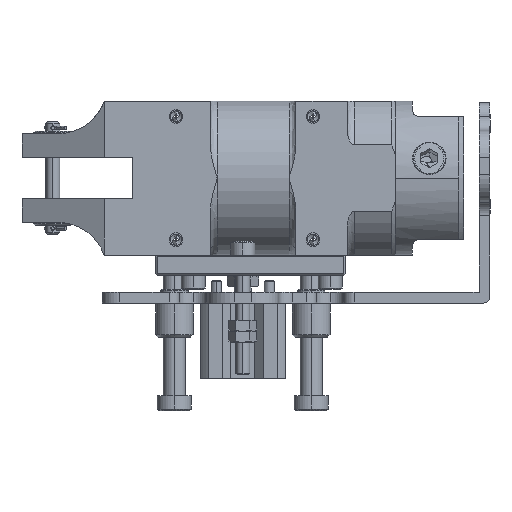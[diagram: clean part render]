
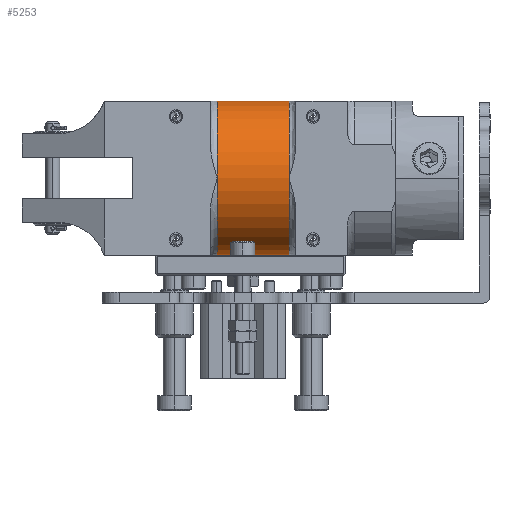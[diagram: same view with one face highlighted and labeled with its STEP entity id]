
A CAD part, left-side view. The second image highlights one B-rep face of the part: STEP entity #5253.
In plain terms, the highlighted cylindrical face has radius 22.5 mm (diameter 45 mm), a partial arc.
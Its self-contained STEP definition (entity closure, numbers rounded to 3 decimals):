
#202 = VERTEX_POINT ( 'NONE', #28748 ) ;
#631 = DIRECTION ( 'NONE',  ( 0., 1., 0. ) ) ;
#946 = CIRCLE ( 'NONE', #1583, 22.5 ) ;
#1263 = DIRECTION ( 'NONE',  ( 0., 0., 1. ) ) ;
#1583 = AXIS2_PLACEMENT_3D ( 'NONE', #14638, #33939, #17383 ) ;
#2890 = CIRCLE ( 'NONE', #27525, 22.5 ) ;
#3549 = LINE ( 'NONE', #33625, #14743 ) ;
#5253 = ADVANCED_FACE ( 'NONE', ( #31962 ), #13834, .T. ) ;
#5865 = DIRECTION ( 'NONE',  ( 0., 1., 0. ) ) ;
#6053 = VERTEX_POINT ( 'NONE', #25131 ) ;
#7167 = CARTESIAN_POINT ( 'NONE',  ( -15.584, 9.627, 22.5 ) ) ;
#8032 = ORIENTED_EDGE ( 'NONE', *, *, #33818, .F. ) ;
#8851 = VERTEX_POINT ( 'NONE', #9040 ) ;
#9040 = CARTESIAN_POINT ( 'NONE',  ( -38.084, 9.627, 22.5 ) ) ;
#9157 = CARTESIAN_POINT ( 'NONE',  ( -38.084, -11.373, 22.5 ) ) ;
#9910 = DIRECTION ( 'NONE',  ( 0., 0., 1. ) ) ;
#10922 = VERTEX_POINT ( 'NONE', #30699 ) ;
#11198 = AXIS2_PLACEMENT_3D ( 'NONE', #11657, #30945, #14425 ) ;
#11657 = CARTESIAN_POINT ( 'NONE',  ( -15.584, -11.373, 22.5 ) ) ;
#11749 = AXIS2_PLACEMENT_3D ( 'NONE', #7167, #26439, #9910 ) ;
#13668 = VECTOR ( 'NONE', #5865, 1000. ) ;
#13834 = CYLINDRICAL_SURFACE ( 'NONE', #21884, 22.5 ) ;
#14093 = CARTESIAN_POINT ( 'NONE',  ( -15.584, -11.373, 22.5 ) ) ;
#14425 = DIRECTION ( 'NONE',  ( 0., 0., 1. ) ) ;
#14638 = CARTESIAN_POINT ( 'NONE',  ( -15.584, -11.373, 22.5 ) ) ;
#14743 = VECTOR ( 'NONE', #631, 1000. ) ;
#14874 = EDGE_CURVE ( 'NONE', #20593, #18586, #26006, .T. ) ;
#14918 = ORIENTED_EDGE ( 'NONE', *, *, #31922, .T. ) ;
#16239 = EDGE_CURVE ( 'NONE', #202, #20593, #946, .T. ) ;
#17276 = ORIENTED_EDGE ( 'NONE', *, *, #14874, .F. ) ;
#17383 = DIRECTION ( 'NONE',  ( 0., 0., 1. ) ) ;
#17703 = DIRECTION ( 'NONE',  ( 0., -1., 0. ) ) ;
#18586 = VERTEX_POINT ( 'NONE', #18838 ) ;
#18838 = CARTESIAN_POINT ( 'NONE',  ( -15.584, -11.373, 0. ) ) ;
#18881 = CIRCLE ( 'NONE', #11749, 22.5 ) ;
#20593 = VERTEX_POINT ( 'NONE', #9157 ) ;
#21175 = EDGE_CURVE ( 'NONE', #202, #10922, #3549, .T. ) ;
#21884 = AXIS2_PLACEMENT_3D ( 'NONE', #14093, #25058, #33389 ) ;
#22085 = ORIENTED_EDGE ( 'NONE', *, *, #16239, .F. ) ;
#23393 = EDGE_LOOP ( 'NONE', ( #8032, #17276, #22085, #26372, #14918, #27037 ) ) ;
#25058 = DIRECTION ( 'NONE',  ( 0., 1., 0. ) ) ;
#25131 = CARTESIAN_POINT ( 'NONE',  ( -15.584, 9.627, 0. ) ) ;
#26006 = CIRCLE ( 'NONE', #11198, 22.5 ) ;
#26372 = ORIENTED_EDGE ( 'NONE', *, *, #21175, .T. ) ;
#26379 = EDGE_CURVE ( 'NONE', #8851, #6053, #2890, .T. ) ;
#26439 = DIRECTION ( 'NONE',  ( 0., -1., 0. ) ) ;
#27037 = ORIENTED_EDGE ( 'NONE', *, *, #26379, .T. ) ;
#27525 = AXIS2_PLACEMENT_3D ( 'NONE', #34239, #17703, #1263 ) ;
#27904 = CARTESIAN_POINT ( 'NONE',  ( -15.584, -11.373, 0. ) ) ;
#28748 = CARTESIAN_POINT ( 'NONE',  ( -15.584, -11.373, 45. ) ) ;
#30699 = CARTESIAN_POINT ( 'NONE',  ( -15.584, 9.627, 45. ) ) ;
#30945 = DIRECTION ( 'NONE',  ( 0., -1., 0. ) ) ;
#31922 = EDGE_CURVE ( 'NONE', #10922, #8851, #18881, .T. ) ;
#31962 = FACE_OUTER_BOUND ( 'NONE', #23393, .T. ) ;
#33389 = DIRECTION ( 'NONE',  ( 0., 0., 1. ) ) ;
#33625 = CARTESIAN_POINT ( 'NONE',  ( -15.584, -11.373, 45. ) ) ;
#33818 = EDGE_CURVE ( 'NONE', #18586, #6053, #35697, .T. ) ;
#33939 = DIRECTION ( 'NONE',  ( 0., -1., 0. ) ) ;
#34239 = CARTESIAN_POINT ( 'NONE',  ( -15.584, 9.627, 22.5 ) ) ;
#35697 = LINE ( 'NONE', #27904, #13668 ) ;
